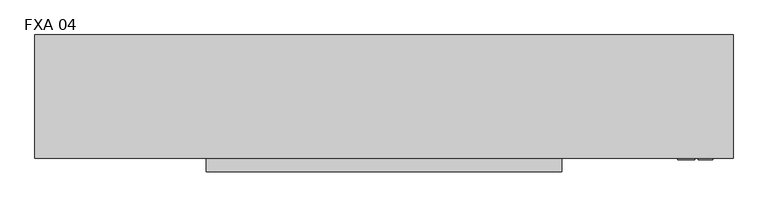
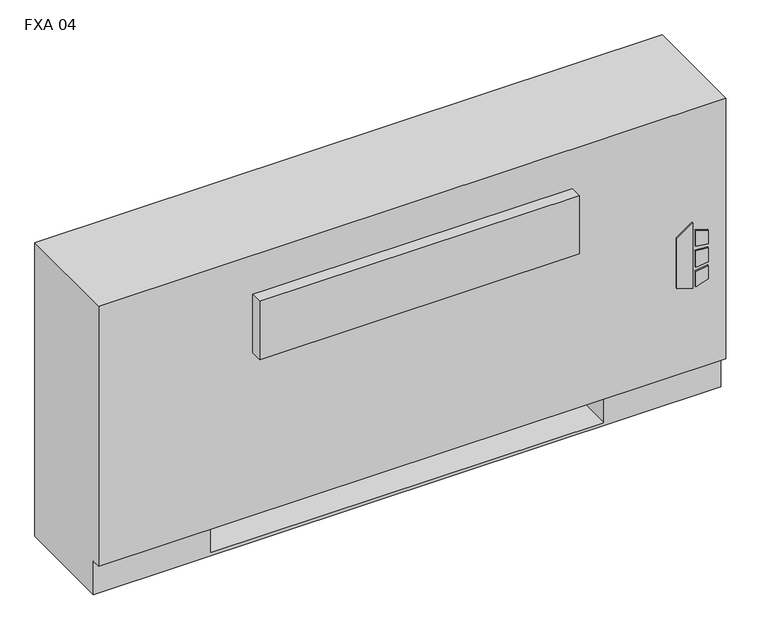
"""IFC4 building model written with IfcOpenShell, lengths in millimetres: proxy geometry, Vertical_Fan_Coil_Unit_-_FXA_-_IEC_-_2-Pipe_FS-FR_LH_2022 : FXA 04."""

import ifcopenshell
import ifcopenshell.guid

model = None  # the IFC model being written
_history = None  # IfcOwnerHistory: only IFC2X3 demands one
_inside = {}  # id of a spatial element -> (the spatial element, [elements in it])
_under = {}  # id of a project, library or spatial element -> (it, [spatial elements below it])
_declared = {}  # id of a project -> (the project, [libraries it declares])
_typed = {}  # id of a type object -> (the type object, [elements of that type])
_made_of = {}  # id of a material, layer set ... -> (it, [elements and type objects made of it])


def new_model(schema):
    """Start an empty IFC model of exactly this schema.

    Asked for "IFC4X3", IfcOpenShell would pick the latest addendum, in which some entities
    have other attributes; the version numbers below select the first issue.
    IFC2X3 requires an IfcOwnerHistory on every rooted entity: one is made here for all.
    """
    global model, _history
    if schema == "IFC4X3":
        model = ifcopenshell.file(schema_version=(4, 3, 0, 0))
    else:
        model = ifcopenshell.file(schema=schema)
    _inside.clear()
    _under.clear()
    _declared.clear()
    _typed.clear()
    _made_of.clear()
    _history = None
    if model.schema == "IFC2X3":
        org = make("IfcOrganization", Name="unknown")
        user = make(
            "IfcPersonAndOrganization",
            ThePerson=make("IfcPerson", FamilyName="unknown"),
            TheOrganization=org,
        )
        app = make(
            "IfcApplication",
            ApplicationDeveloper=org,
            Version="unknown",
            ApplicationFullName="unknown",
            ApplicationIdentifier="unknown",
        )
        _history = make(
            "IfcOwnerHistory",
            OwningUser=user,
            OwningApplication=app,
            ChangeAction="ADDED",
            CreationDate=0,
        )
    return model


def make(cls, **values):
    """One entity of the class cls with the attributes given. An attribute that is None is left unset."""
    return model.create_entity(
        cls, **{name: value for name, value in values.items() if value is not None}
    )


def rooted(cls, **values):
    """An entity with a GlobalId (a new one), such as an element, a storey or a relation."""
    return make(cls, GlobalId=ifcopenshell.guid.new(), OwnerHistory=_history, **values)


def si_unit(unit_type, name, prefix=None):
    """IfcSIUnit, for example si_unit("LENGTHUNIT", "METRE", prefix="MILLI")."""
    return make("IfcSIUnit", UnitType=unit_type, Prefix=prefix, Name=name)


def assignment(units):
    """IfcUnitAssignment: the units of a project."""
    return None if units is None else make("IfcUnitAssignment", Units=units)


def point(xyz):
    """IfcCartesianPoint."""
    return None if xyz is None else make("IfcCartesianPoint", Coordinates=xyz)


def direction(xyz):
    """IfcDirection."""
    return None if xyz is None else make("IfcDirection", DirectionRatios=xyz)


def frame(location, z_axis=None, x_axis=None):
    """IfcAxis2Placement3D, a coordinate frame: its origin and axes. An axis left out is left unset."""
    return make(
        "IfcAxis2Placement3D",
        Location=point(location),
        Axis=direction(z_axis),
        RefDirection=direction(x_axis),
    )


def frame_2d(location, x_axis=None):
    """IfcAxis2Placement2D, a coordinate frame in the plane: its origin and x axis."""
    return make(
        "IfcAxis2Placement2D", Location=point(location), RefDirection=direction(x_axis)
    )


def origin():
    """The frame at (0, 0, 0) with its axes left unset."""
    return frame((0.0, 0.0, 0.0))


def place(relative_to, where):
    """IfcLocalPlacement: puts the frame where relative to a parent placement (None: the world)."""
    return make(
        "IfcLocalPlacement", PlacementRelTo=relative_to, RelativePlacement=where
    )


def context(
    kind, dimensions, precision=None, world=None, true_north=None, identifier=None
):
    """IfcGeometricRepresentationContext, for example the 3D "Model" context."""
    return make(
        "IfcGeometricRepresentationContext",
        ContextIdentifier=identifier,
        ContextType=kind,
        CoordinateSpaceDimension=dimensions,
        Precision=precision,
        WorldCoordinateSystem=world,
        TrueNorth=true_north,
    )


def project(units=None, contexts=None):
    """IfcProject with its units and contexts."""
    return rooted(
        "IfcProject",
        Name="project",
        RepresentationContexts=contexts,
        UnitsInContext=assignment(units),
    )


def spatial(cls, under=None, at=None, **own):
    """A site, building, storey or space (cls), placed at a placement, below another one or the project."""
    s = rooted(cls, ObjectPlacement=at, **own)
    if under is not None:
        _under.setdefault(under.id(), (under, []))[1].append(s)
    return s


def polyline(points):
    """IfcPolyline through the points."""
    return make("IfcPolyline", Points=[point(p) for p in points])


def circle_curve(where, radius):
    """IfcCircle in the frame where."""
    return make("IfcCircle", Position=where, Radius=radius)


def trimmed(basis, trim1, trim2, sense, master):
    """IfcTrimmedCurve: the piece of a basis curve between two trims."""
    return make(
        "IfcTrimmedCurve",
        BasisCurve=basis,
        Trim1=trim1,
        Trim2=trim2,
        SenseAgreement=sense,
        MasterRepresentation=master,
    )


def segment(curve, same_sense, transition):
    """IfcCompositeCurveSegment."""
    return make(
        "IfcCompositeCurveSegment",
        Transition=transition,
        SameSense=same_sense,
        ParentCurve=curve,
    )


def composite_curve(segments, self_intersect=None):
    """IfcCompositeCurve: segments joined end to end."""
    return make("IfcCompositeCurve", Segments=segments, SelfIntersect=self_intersect)


def outline(outer, holes=None, kind="AREA"):
    """IfcArbitraryClosedProfileDef: a profile drawn as a closed curve; with holes, ...WithVoids."""
    if holes is None:
        return make("IfcArbitraryClosedProfileDef", ProfileType=kind, OuterCurve=outer)
    return make(
        "IfcArbitraryProfileDefWithVoids",
        ProfileType=kind,
        OuterCurve=outer,
        InnerCurves=holes,
    )


def extrude(swept, where, along, depth):
    """IfcExtrudedAreaSolid: the profile swept, set in the frame where, extruded along a direction by depth."""
    return make(
        "IfcExtrudedAreaSolid",
        SweptArea=swept,
        Position=where,
        ExtrudedDirection=direction(along),
        Depth=depth,
    )


def shape(context_of_items, identifier, shape_type, items):
    """IfcShapeRepresentation: the items that make up one representation, for example the "Body"."""
    return make(
        "IfcShapeRepresentation",
        ContextOfItems=context_of_items,
        RepresentationIdentifier=identifier,
        RepresentationType=shape_type,
        Items=items,
    )


def source(mapping_origin, context_of_items, identifier, shape_type, items):
    """IfcRepresentationMap: a shape defined once, which mapped items show again and again."""
    return make(
        "IfcRepresentationMap",
        MappingOrigin=mapping_origin,
        MappedRepresentation=shape(context_of_items, identifier, shape_type, items),
    )


def transform(
    local_origin,
    x_axis=None,
    y_axis=None,
    z_axis=None,
    scale=None,
    scale2=None,
    scale3=None,
    uniform=True,
):
    """IfcCartesianTransformationOperator3D, or its non-uniform kind. x_axis, y_axis, z_axis: its Axis1, 2, 3."""
    if uniform:
        return make(
            "IfcCartesianTransformationOperator3D",
            Axis1=direction(x_axis),
            Axis2=direction(y_axis),
            LocalOrigin=point(local_origin),
            Scale=scale,
            Axis3=direction(z_axis),
        )
    return make(
        "IfcCartesianTransformationOperator3DnonUniform",
        Axis1=direction(x_axis),
        Axis2=direction(y_axis),
        LocalOrigin=point(local_origin),
        Scale=scale,
        Axis3=direction(z_axis),
        Scale2=scale2,
        Scale3=scale3,
    )


def mapped(mapping_source, mapping_target):
    """IfcMappedItem: shows the shape of a source again, moved by a transform."""
    return make(
        "IfcMappedItem", MappingSource=mapping_source, MappingTarget=mapping_target
    )


def made_of(thing, what):
    """Note that an element or type object is made of a material, layer set ...; save() writes the relation."""
    if what is not None:
        _made_of.setdefault(what.id(), (what, []))[1].append(thing)
    return thing


def element(
    cls,
    number,
    at=None,
    inside=None,
    cuts=None,
    type_object=None,
    material=None,
    context=None,
    identifier="Body",
    shape_type=None,
    held_by="IfcProductDefinitionShape",
    body=None,
    shapes=None,
    **own,
):
    """One element of the class cls, such as IfcWall. Its Tag is "e" and its number.

    at: its placement. inside: the storey or other place that contains it. cuts: it is an
    opening in that element (IfcRelVoidsElement). A single representation is given by context,
    identifier, shape_type and body (its items); several are given by shapes. held_by: the class
    of the entity that holds the representations. save() writes the other relations.
    """
    e = rooted(cls, Tag="e%d" % number, ObjectPlacement=at, **own)
    if body is not None:
        shapes = [shape(context, identifier, shape_type, body)]
    if shapes is not None:
        e.Representation = make(held_by, Representations=shapes)
    if inside is not None:
        _inside.setdefault(inside.id(), (inside, []))[1].append(e)
    if cuts is not None:
        rooted(
            "IfcRelVoidsElement", RelatingBuildingElement=cuts, RelatedOpeningElement=e
        )
    if type_object is not None:
        _typed.setdefault(type_object.id(), (type_object, []))[1].append(e)
    return made_of(e, material)


def aggregate(whole, parts):
    """IfcRelAggregates: a whole, such as a stair, and the parts it consists of."""
    return rooted("IfcRelAggregates", RelatingObject=whole, RelatedObjects=parts)


def save(model, path):
    """Write the relations noted so far, then the file.

    IfcRelAggregates (storeys below a building ...), IfcRelContainedInSpatialStructure (elements
    in a storey), IfcRelDefinesByType, IfcRelAssociatesMaterial and IfcRelDeclares: one each for
    every whole, place, type object, material and project.
    """
    for whole, parts in _under.values():
        aggregate(whole, parts)
    for where, things in _inside.values():
        rooted(
            "IfcRelContainedInSpatialStructure",
            RelatedElements=things,
            RelatingStructure=where,
        )
    for kind, things in _typed.values():
        rooted("IfcRelDefinesByType", RelatedObjects=things, RelatingType=kind)
    for what, things in _made_of.values():
        rooted("IfcRelAssociatesMaterial", RelatedObjects=things, RelatingMaterial=what)
    for by, libraries in _declared.values():
        rooted("IfcRelDeclares", RelatingContext=by, RelatedDefinitions=libraries)
    model.write(path)


def plane_surface(at):
    """IfcPlane: the flat surface through the origin of the frame at, square to its z axis."""
    return make("IfcPlane", Position=at)


def revolved_surface(curve, axis_point, axis_direction):
    """IfcSurfaceOfRevolution: the curve turned about the line through axis_point along axis_direction."""
    return make(
        "IfcSurfaceOfRevolution",
        SweptCurve=make("IfcArbitraryOpenProfileDef", ProfileType="CURVE", Curve=curve),
        AxisPosition=make("IfcAxis1Placement", Location=point(axis_point), Axis=direction(axis_direction)),
    )


def advanced_brep(points, edges, surfaces, faces):
    """IfcAdvancedBrep: a solid bounded by faces that lie on surfaces and meet in shared edges.

    An edge is (start, end): straight between two places in points (the first is 0);
    or (start, end, curve); or (start, end, curve, False) where it runs against its curve.
    A face is (place in surfaces, loops), or (place, loops, False) where it looks against
    its surface's normal. A loop lists edges by number (the first is 1), with a minus sign
    where the edge is run from its end to its start. The first loop is the outer one.
    """
    corners = [point(p) for p in points]
    vertices = [make("IfcVertexPoint", VertexGeometry=c) for c in corners]
    made = []
    for start, end, *more in edges:
        made.append(
            make(
                "IfcEdgeCurve",
                EdgeStart=vertices[start],
                EdgeEnd=vertices[end],
                EdgeGeometry=more[0] if more else make("IfcPolyline", Points=[corners[start], corners[end]]),
                SameSense=more[1] if len(more) > 1 else True,
            )
        )
    hull = []
    for where, loops, *sense in faces:
        bounds = []
        for j, loop in enumerate(loops):
            ring = [make("IfcOrientedEdge", EdgeElement=made[abs(k) - 1], Orientation=k > 0) for k in loop]
            bounds.append(
                make(
                    "IfcFaceOuterBound" if j == 0 else "IfcFaceBound",
                    Bound=make("IfcEdgeLoop", EdgeList=ring),
                    Orientation=True,
                )
            )
        hull.append(make("IfcAdvancedFace", Bounds=bounds, FaceSurface=surfaces[where], SameSense=sense[0] if sense else True))
    return make("IfcAdvancedBrep", Outer=make("IfcClosedShell", CfsFaces=hull))


def fxa_04_157f485f(model_context):
    return source(origin(), model_context, "Body", "SolidModel", [
        extrude(outline(polyline([(263.9480703, 696.9868862), (254.0, 729.1602728), (396.1709244, 729.1602728), (373.1489183, 696.9868862), (263.9480703, 696.9868862)])), frame((0.0, 12.7, 0.0), z_axis=(0.0, 1.0, 0.0), x_axis=(0.0, 0.0, 1.0)), (0.0, 0.0, 1.0), 3.175),
        extrude(outline(polyline([(342.9473557, 735.9186058), (339.7449632, 762.0), (368.9738042, 762.0), (377.0382193, 735.9186058), (342.9473557, 735.9186058)])), frame((0.0, 12.7, 0.0), z_axis=(0.0, 1.0, 0.0), x_axis=(0.0, 0.0, 1.0)), (0.0, 0.0, 1.0), 3.175),
        extrude(outline(polyline([(291.0838288, 762.0), (287.4183279, 735.9186058), (254.0, 735.9186058), (262.6342372, 762.0), (291.0838288, 762.0)])), frame((0.0, 12.7, 0.0), z_axis=(0.0, 1.0, 0.0), x_axis=(0.0, 0.0, 1.0)), (0.0, 0.0, 1.0), 3.175),
        extrude(outline(polyline([(330.3989903, 762.0), (332.6808166, 735.9186058), (296.7432681, 735.9186058), (299.4845331, 762.0), (330.3989903, 762.0)])), frame((0.0, 12.7, 0.0), z_axis=(0.0, 1.0, 0.0), x_axis=(0.0, 0.0, 1.0)), (0.0, 0.0, 1.0), 3.175),
        extrude(outline(polyline([(679.45, 223.266), (679.45, 81.534), (558.8, 81.534), (558.8, 223.266), (679.45, 223.266)])), frame((0.0, 0.0, 327.025), z_axis=(0.0, 0.0, 1.0), x_axis=(1.0, 0.0, 0.0)), (0.0, 0.0, 1.0), 260.35),
        extrude(outline(composite_curve([segment(trimmed(circle_curve(frame_2d((-317.5, 130.175)), 9.525), [point((-327.025, 130.175))], [point((-307.975, 130.175))], False, "CARTESIAN"), True, "CONTINUOUS"), segment(trimmed(circle_curve(frame_2d((-317.5, 130.175)), 9.525), [point((-307.975, 130.175))], [point((-327.025, 130.175))], False, "CARTESIAN"), True, "CONTINUOUS")], self_intersect=False)), frame((0.0, 0.0, 101.6), z_axis=(0.0, 0.0, 1.0), x_axis=(1.0, 0.0, 0.0)), (0.0, 0.0, 1.0), 25.4),
        extrude(outline(polyline([(-419.1, 63.5), (-419.1, 196.85), (-254.0, 196.85), (-254.0, 63.5), (-419.1, 63.5)])), frame((0.0, 0.0, 127.0), z_axis=(0.0, 0.0, 1.0), x_axis=(1.0, 0.0, 0.0)), (0.0, 0.0, 1.0), 50.8),
        extrude(outline(polyline([(482.6, -9.525), (-177.8, -9.525), (-177.8, 15.875), (482.6, 15.875), (482.6, -9.525)])), frame((0.0, 0.0, 428.625), z_axis=(0.0, 0.0, 1.0), x_axis=(1.0, 0.0, 0.0)), (0.0, 0.0, 1.0), 127.0),
        extrude(outline(composite_curve([segment(trimmed(circle_curve(frame_2d((93.1926, 485.5972)), 7.9375), [point((93.1926, 493.5347))], [point((93.1926, 477.6597))], False, "CARTESIAN"), True, "CONTINUOUS"), segment(trimmed(circle_curve(frame_2d((93.1926, 485.5972)), 7.9375), [point((93.1926, 477.6597))], [point((93.1926, 493.5347))], False, "CARTESIAN"), True, "CONTINUOUS")], self_intersect=False)), frame((-304.8, 0.0, 0.0), z_axis=(1.0, 0.0, 0.0), x_axis=(0.0, 1.0, 0.0)), (0.0, 0.0, 1.0), 50.8),
        extrude(outline(composite_curve([segment(trimmed(circle_curve(frame_2d((141.3002, 458.9526)), 7.9375), [point((141.3002, 466.8901))], [point((141.3002, 451.0151))], False, "CARTESIAN"), True, "CONTINUOUS"), segment(trimmed(circle_curve(frame_2d((141.3002, 458.9526)), 7.9375), [point((141.3002, 451.0151))], [point((141.3002, 466.8901))], False, "CARTESIAN"), True, "CONTINUOUS")], self_intersect=False)), frame((-304.8, 0.0, 0.0), z_axis=(1.0, 0.0, 0.0), x_axis=(0.0, 1.0, 0.0)), (0.0, 0.0, 1.0), 50.8),
        advanced_brep(
        [(800.1, 244.475, 641.35), (-495.3, 244.475, 641.35), (-495.3, 15.875, 641.35), (800.1, 15.875, 641.35), (-495.3, 244.475, 0.0), (800.1, 244.475, 0.0), (800.1, 34.925, 0.0), (-495.3, 34.925, 0.0), (558.8, 244.475, 73.025), (787.4, 244.475, 73.025), (787.4, 244.475, 628.65), (558.8, 244.475, 628.65), (558.8, 244.475, 414.8650565), (587.375, 244.475, 414.8650565), (587.375, 244.475, 385.2349435), (558.8, 244.475, 385.2349435), (558.8, 244.475, 287.3375), (587.375, 244.475, 287.3375), (587.375, 244.475, 258.7625), (558.8, 244.475, 258.7625), (558.8, 244.475, 141.2875), (587.375, 244.475, 141.2875), (587.375, 244.475, 112.7125), (558.8, 244.475, 112.7125), (-254.0, 244.475, 628.65), (-482.6, 244.475, 628.65), (-482.6, 244.475, 73.025), (-254.0, 244.475, 73.025), (-254.0, 244.475, 112.7125), (-282.575, 244.475, 112.7125), (-282.575, 244.475, 141.2875), (-254.0, 244.475, 141.2875), (-254.0, 244.475, 258.7625), (-282.575, 244.475, 258.7625), (-282.575, 244.475, 287.3375), (-254.0, 244.475, 287.3375), (-254.0, 244.475, 385.2349435), (-282.575, 244.475, 385.2349435), (-282.575, 244.475, 414.8650565), (-254.0, 244.475, 414.8650565), (577.0626, 244.475, 127.0), (565.9374, 244.475, 127.0), (577.0626, 244.475, 400.05), (565.9374, 244.475, 400.05), (577.0626, 244.475, 273.05), (565.9374, 244.475, 273.05), (-261.1374, 244.475, 127.0), (-272.2626, 244.475, 127.0), (-261.1374, 244.475, 273.05), (-272.2626, 244.475, 273.05), (-261.1374, 244.475, 400.05), (-272.2626, 244.475, 400.05), (-495.3, 34.925, 73.025), (-495.3, 15.875, 73.025), (800.1, 15.875, 73.025), (800.1, 34.925, 73.025), (-254.0, 34.925, 73.025), (-254.0, 219.075, 73.025), (558.8, 219.075, 73.025), (558.8, 34.925, 73.025), (558.8, 34.925, 6.35), (-254.0, 34.925, 6.35), (558.8, 41.275, 628.65), (787.4, 41.275, 628.65), (787.4, 41.275, 73.025), (558.8, 41.275, 73.025), (-254.0, 41.275, 628.65), (-254.0, 41.275, 73.025), (-482.6, 41.275, 73.025), (-482.6, 41.275, 628.65), (558.8, 219.075, 73.025), (558.8, 238.125, 112.7125), (558.8, 238.125, 141.2875), (558.8, 238.125, 258.7625), (558.8, 238.125, 287.3375), (558.8, 238.125, 385.2349435), (558.8, 238.125, 414.8650565), (-254.0, 219.075, 73.025), (-254.0, 238.125, 414.8650565), (-254.0, 238.125, 385.2349435), (-254.0, 238.125, 287.3375), (-254.0, 238.125, 258.7625), (-254.0, 238.125, 141.2875), (-254.0, 238.125, 112.7125), (-254.0, 219.075, 6.35), (558.8, 219.075, 6.35), (587.375, 238.125, 112.7125), (587.375, 238.125, 141.2875), (565.9374, 238.125, 127.0), (577.0626, 238.125, 127.0), (587.375, 238.125, 258.7625), (587.375, 238.125, 287.3375), (565.9374, 238.125, 273.05), (577.0626, 238.125, 273.05), (587.375, 238.125, 385.2349435), (587.375, 238.125, 414.8650565), (565.9374, 238.125, 400.05), (577.0626, 238.125, 400.05), (-282.575, 238.125, 141.2875), (-282.575, 238.125, 112.7125), (-272.2626, 238.125, 127.0), (-261.1374, 238.125, 127.0), (-282.575, 238.125, 287.3375), (-282.575, 238.125, 258.7625), (-272.2626, 238.125, 273.05), (-261.1374, 238.125, 273.05), (-282.575, 238.125, 414.8650565), (-282.575, 238.125, 385.2349435), (-272.2626, 238.125, 400.05), (-261.1374, 238.125, 400.05)],
        [
            (0, 1),
            (1, 2),
            (2, 3),
            (3, 0),
            (4, 5),
            (5, 6),
            (6, 7),
            (7, 4),
            (0, 5),
            (4, 1),
            (8, 9),
            (9, 10),
            (10, 11),
            (11, 12),
            (12, 13),
            (13, 14),
            (14, 15),
            (15, 16),
            (16, 17),
            (17, 18),
            (18, 19),
            (19, 20),
            (20, 21),
            (21, 22),
            (22, 23),
            (23, 8),
            (24, 25),
            (25, 26),
            (26, 27),
            (27, 28),
            (28, 29),
            (29, 30),
            (30, 31),
            (31, 32),
            (32, 33),
            (33, 34),
            (34, 35),
            (35, 36),
            (36, 37),
            (37, 38),
            (38, 39),
            (39, 24),
            (40, 41, circle_curve(frame((571.5, 244.475, 127.0), z_axis=(0.0, -1.0, 0.0), x_axis=(-1.0, 0.0, 0.0)), 5.5626)),
            (41, 40, circle_curve(frame((571.5, 244.475, 127.0), z_axis=(0.0, -1.0, 0.0), x_axis=(-1.0, 0.0, 0.0)), 5.5626)),
            (42, 43, circle_curve(frame((571.5, 244.475, 400.05), z_axis=(0.0, -1.0, 0.0), x_axis=(-1.0, 0.0, 0.0)), 5.5626)),
            (43, 42, circle_curve(frame((571.5, 244.475, 400.05), z_axis=(0.0, -1.0, 0.0), x_axis=(-1.0, 0.0, 0.0)), 5.5626)),
            (44, 45, circle_curve(frame((571.5, 244.475, 273.05), z_axis=(0.0, -1.0, 0.0), x_axis=(-1.0, 0.0, 0.0)), 5.5626)),
            (45, 44, circle_curve(frame((571.5, 244.475, 273.05), z_axis=(0.0, -1.0, 0.0), x_axis=(-1.0, 0.0, 0.0)), 5.5626)),
            (46, 47, circle_curve(frame((-266.7, 244.475, 127.0), z_axis=(0.0, -1.0, 0.0), x_axis=(-1.0, 0.0, 0.0)), 5.5626)),
            (47, 46, circle_curve(frame((-266.7, 244.475, 127.0), z_axis=(0.0, -1.0, 0.0), x_axis=(-1.0, 0.0, 0.0)), 5.5626)),
            (48, 49, circle_curve(frame((-266.7, 244.475, 273.05), z_axis=(0.0, -1.0, 0.0), x_axis=(-1.0, 0.0, 0.0)), 5.5626)),
            (49, 48, circle_curve(frame((-266.7, 244.475, 273.05), z_axis=(0.0, -1.0, 0.0), x_axis=(-1.0, 0.0, 0.0)), 5.5626)),
            (50, 51, circle_curve(frame((-266.7, 244.475, 400.05), z_axis=(0.0, -1.0, 0.0), x_axis=(-1.0, 0.0, 0.0)), 5.5626)),
            (51, 50, circle_curve(frame((-266.7, 244.475, 400.05), z_axis=(0.0, -1.0, 0.0), x_axis=(-1.0, 0.0, 0.0)), 5.5626)),
            (7, 52),
            (52, 53),
            (53, 2),
            (53, 54),
            (54, 3),
            (54, 55),
            (55, 6),
            (52, 56),
            (56, 57),
            (57, 58),
            (58, 59),
            (59, 55),
            (59, 60),
            (60, 61),
            (61, 56),
            (62, 63),
            (63, 64),
            (64, 65),
            (65, 62),
            (66, 67),
            (67, 68),
            (68, 69),
            (69, 66),
            (65, 70),
            (70, 8),
            (23, 71),
            (71, 72),
            (72, 20),
            (19, 73),
            (73, 74),
            (74, 16),
            (15, 75),
            (75, 76),
            (76, 12),
            (11, 62),
            (64, 9),
            (63, 10),
            (69, 25),
            (24, 66),
            (68, 26),
            (67, 77),
            (77, 27),
            (39, 78),
            (78, 79),
            (79, 36),
            (35, 80),
            (80, 81),
            (81, 32),
            (31, 82),
            (82, 83),
            (83, 28),
            (57, 84),
            (84, 85),
            (85, 58),
            (85, 60),
            (84, 61),
            (71, 86),
            (86, 87),
            (87, 72),
            (88, 89, circle_curve(frame((571.5, 238.125, 127.0), z_axis=(0.0, 1.0, 0.0), x_axis=(-1.0, 0.0, 0.0)), 5.5626)),
            (89, 88, circle_curve(frame((571.5, 238.125, 127.0), z_axis=(0.0, 1.0, 0.0), x_axis=(-1.0, 0.0, 0.0)), 5.5626)),
            (73, 90),
            (90, 91),
            (91, 74),
            (92, 93, circle_curve(frame((571.5, 238.125, 273.05), z_axis=(0.0, 1.0, 0.0), x_axis=(-1.0, 0.0, 0.0)), 5.5626)),
            (93, 92, circle_curve(frame((571.5, 238.125, 273.05), z_axis=(0.0, 1.0, 0.0), x_axis=(-1.0, 0.0, 0.0)), 5.5626)),
            (75, 94),
            (94, 95),
            (95, 76),
            (96, 97, circle_curve(frame((571.5, 238.125, 400.05), z_axis=(0.0, 1.0, 0.0), x_axis=(-1.0, 0.0, 0.0)), 5.5626)),
            (97, 96, circle_curve(frame((571.5, 238.125, 400.05), z_axis=(0.0, 1.0, 0.0), x_axis=(-1.0, 0.0, 0.0)), 5.5626)),
            (98, 99),
            (99, 83),
            (82, 98),
            (100, 101, circle_curve(frame((-266.7, 238.125, 127.0), z_axis=(0.0, 1.0, 0.0), x_axis=(-1.0, 0.0, 0.0)), 5.5626)),
            (101, 100, circle_curve(frame((-266.7, 238.125, 127.0), z_axis=(0.0, 1.0, 0.0), x_axis=(-1.0, 0.0, 0.0)), 5.5626)),
            (102, 103),
            (103, 81),
            (80, 102),
            (104, 105, circle_curve(frame((-266.7, 238.125, 273.05), z_axis=(0.0, 1.0, 0.0), x_axis=(-1.0, 0.0, 0.0)), 5.5626)),
            (105, 104, circle_curve(frame((-266.7, 238.125, 273.05), z_axis=(0.0, 1.0, 0.0), x_axis=(-1.0, 0.0, 0.0)), 5.5626)),
            (106, 107),
            (107, 79),
            (78, 106),
            (108, 109, circle_curve(frame((-266.7, 238.125, 400.05), z_axis=(0.0, 1.0, 0.0), x_axis=(-1.0, 0.0, 0.0)), 5.5626)),
            (109, 108, circle_curve(frame((-266.7, 238.125, 400.05), z_axis=(0.0, 1.0, 0.0), x_axis=(-1.0, 0.0, 0.0)), 5.5626)),
            (87, 21),
            (86, 22),
            (91, 17),
            (90, 18),
            (95, 13),
            (94, 14),
            (30, 98),
            (99, 29),
            (34, 102),
            (103, 33),
            (38, 106),
            (107, 37),
            (88, 41),
            (40, 89),
            (96, 43),
            (42, 97),
            (92, 45),
            (44, 93),
            (100, 47),
            (46, 101),
            (104, 49),
            (48, 105),
            (108, 51),
            (50, 109),
        ],
        [
            plane_surface(frame((-495.3, 244.475, 641.35), z_axis=(0.0, 0.0, 1.0), x_axis=(-1.0, 0.0, 0.0))),
            plane_surface(frame((-495.3, 244.475, 0.0), z_axis=(0.0, 0.0, -1.0), x_axis=(1.0, 0.0, 0.0))),
            plane_surface(frame((800.1, 244.475, 641.35), z_axis=(0.0, 1.0, 0.0), x_axis=(0.0, 0.0, -1.0))),
            plane_surface(frame((-495.3, 244.475, 641.35), z_axis=(-1.0, 0.0, 0.0), x_axis=(0.0, 0.0, -1.0))),
            plane_surface(frame((-495.3, 15.875, 641.35), z_axis=(0.0, -1.0, 0.0), x_axis=(0.0, 0.0, -1.0))),
            plane_surface(frame((800.1, 15.875, 641.35), z_axis=(1.0, 0.0, 0.0), x_axis=(0.0, 0.0, -1.0))),
            plane_surface(frame((-495.3, 15.875, 73.025), z_axis=(0.0, 0.0, -1.0), x_axis=(1.0, 0.0, 0.0))),
            plane_surface(frame((-495.3, 34.925, 73.025), z_axis=(0.0, -1.0, 0.0), x_axis=(1.0, 0.0, 0.0))),
            plane_surface(frame((558.8, 41.275, 628.65), z_axis=(0.0, 1.0, 0.0), x_axis=(0.0, 0.0, -1.0))),
            plane_surface(frame((558.8, 41.275, 628.65), z_axis=(1.0, 0.0, 0.0), x_axis=(0.0, 1.0, 0.0))),
            plane_surface(frame((558.8, 41.275, 73.025), z_axis=(0.0, 0.0, 1.0), x_axis=(0.0, 1.0, 0.0))),
            plane_surface(frame((787.4, 41.275, 73.025), z_axis=(-1.0, 0.0, 0.0), x_axis=(0.0, 1.0, 0.0))),
            plane_surface(frame((787.4, 41.275, 628.65), z_axis=(0.0, 0.0, -1.0), x_axis=(0.0, 1.0, 0.0))),
            plane_surface(frame((-254.0, 41.275, 628.65), z_axis=(0.0, 0.0, -1.0), x_axis=(0.0, 1.0, 0.0))),
            plane_surface(frame((-482.6, 41.275, 628.65), z_axis=(1.0, 0.0, 0.0), x_axis=(0.0, 1.0, 0.0))),
            plane_surface(frame((-482.6, 41.275, 73.025), z_axis=(0.0, 0.0, 1.0), x_axis=(0.0, 1.0, 0.0))),
            plane_surface(frame((-254.0, 41.275, 73.025), z_axis=(-1.0, 0.0, 0.0), x_axis=(0.0, 1.0, 0.0))),
            plane_surface(frame((558.8, 219.075, 73.025), z_axis=(0.0, -1.0, 0.0), x_axis=(0.0, 0.0, -1.0))),
            plane_surface(frame((558.8, 219.075, 73.025), z_axis=(-1.0, 0.0, 0.0), x_axis=(0.0, -1.0, 0.0))),
            plane_surface(frame((558.8, 219.075, 6.35), z_axis=(0.0, 0.0, 1.0), x_axis=(0.0, -1.0, 0.0))),
            plane_surface(frame((-254.0, 219.075, 6.35), z_axis=(1.0, 0.0, 0.0), x_axis=(0.0, -1.0, 0.0))),
            plane_surface(frame((587.375, 238.125, 141.2875), z_axis=(0.0, -1.0, 0.0), x_axis=(-1.0, 0.0, 0.0))),
            plane_surface(frame((558.8, 244.475, 141.2875), z_axis=(0.0, 0.0, 1.0), x_axis=(0.0, -1.0, 0.0))),
            plane_surface(frame((587.375, 244.475, 141.2875), z_axis=(1.0, 0.0, 0.0), x_axis=(0.0, -1.0, 0.0))),
            plane_surface(frame((587.375, 244.475, 112.7125), z_axis=(0.0, 0.0, -1.0), x_axis=(0.0, -1.0, 0.0))),
            plane_surface(frame((558.8, 244.475, 287.3375), z_axis=(0.0, 0.0, 1.0), x_axis=(0.0, -1.0, 0.0))),
            plane_surface(frame((587.375, 244.475, 287.3375), z_axis=(1.0, 0.0, 0.0), x_axis=(0.0, -1.0, 0.0))),
            plane_surface(frame((587.375, 244.475, 258.7625), z_axis=(0.0, 0.0, -1.0), x_axis=(0.0, -1.0, 0.0))),
            plane_surface(frame((558.8, 244.475, 414.8650565), z_axis=(0.0, 0.0, 1.0), x_axis=(0.0, -1.0, 0.0))),
            plane_surface(frame((587.375, 244.475, 414.8650565), z_axis=(1.0, 0.0, 0.0), x_axis=(0.0, -1.0, 0.0))),
            plane_surface(frame((587.375, 244.475, 385.2349435), z_axis=(0.0, 0.0, -1.0), x_axis=(0.0, -1.0, 0.0))),
            plane_surface(frame((-282.575, 244.475, 141.2875), z_axis=(0.0, 0.0, 1.0), x_axis=(0.0, -1.0, 0.0))),
            plane_surface(frame((-254.0, 244.475, 112.7125), z_axis=(0.0, 0.0, -1.0), x_axis=(0.0, -1.0, 0.0))),
            plane_surface(frame((-282.575, 244.475, 112.7125), z_axis=(-1.0, 0.0, 0.0), x_axis=(0.0, -1.0, 0.0))),
            plane_surface(frame((-282.575, 244.475, 287.3375), z_axis=(0.0, 0.0, 1.0), x_axis=(0.0, -1.0, 0.0))),
            plane_surface(frame((-254.0, 244.475, 258.7625), z_axis=(0.0, 0.0, -1.0), x_axis=(0.0, -1.0, 0.0))),
            plane_surface(frame((-282.575, 244.475, 258.7625), z_axis=(-1.0, 0.0, 0.0), x_axis=(0.0, -1.0, 0.0))),
            plane_surface(frame((-282.575, 244.475, 414.8650565), z_axis=(0.0, 0.0, 1.0), x_axis=(0.0, -1.0, 0.0))),
            plane_surface(frame((-254.0, 244.475, 385.2349435), z_axis=(0.0, 0.0, -1.0), x_axis=(0.0, -1.0, 0.0))),
            plane_surface(frame((-282.575, 244.475, 385.2349435), z_axis=(-1.0, 0.0, 0.0), x_axis=(0.0, -1.0, 0.0))),
            revolved_surface(polyline([(565.9374, 238.125, 127.0), (565.9374, 244.475, 127.0)]), (571.5, 244.475, 127.0), (0.0, -1.0, 0.0)),
            revolved_surface(polyline([(565.9374, 238.125, 400.05), (565.9374, 244.475, 400.05)]), (571.5, 244.475, 400.05), (0.0, -1.0, 0.0)),
            revolved_surface(polyline([(565.9374, 238.125, 273.05), (565.9374, 244.475, 273.05)]), (571.5, 244.475, 273.05), (0.0, -1.0, 0.0)),
            revolved_surface(polyline([(-272.26259999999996, 238.125, 127.0), (-272.26259999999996, 244.475, 127.0)]), (-266.7, 244.475, 127.0), (0.0, -1.0, 0.0)),
            revolved_surface(polyline([(-272.26259999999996, 238.125, 273.05), (-272.26259999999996, 244.475, 273.05)]), (-266.7, 244.475, 273.05), (0.0, -1.0, 0.0)),
            revolved_surface(polyline([(-272.26259999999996, 238.125, 400.05), (-272.26259999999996, 244.475, 400.05)]), (-266.7, 244.475, 400.05), (0.0, -1.0, 0.0)),
        ],
        [
            (0, [[1, 2, 3, 4]]),
            (1, [[5, 6, 7, 8]]),
            (2, [[-1, 9, -5, 10], [11, 12, 13, 14, 15, 16, 17, 18, 19, 20, 21, 22, 23, 24, 25, 26], [27, 28, 29, 30, 31, 32, 33, 34, 35, 36, 37, 38, 39, 40, 41, 42], [43, 44], [45, 46], [47, 48], [49, 50], [51, 52], [53, 54]]),
            (3, [[-2, -10, -8, 55, 56, 57]]),
            (4, [[-3, -57, 58, 59]]),
            (5, [[-4, -59, 60, 61, -6, -9]]),
            (6, [[-56, 62, 63, 64, 65, 66, -60, -58]]),
            (7, [[-7, -61, -66, 67, 68, 69, -62, -55]]),
            (8, [[70, 71, 72, 73]]),
            (8, [[74, 75, 76, 77]]),
            (9, [[-73, 78, 79, -26, 80, 81, 82, -22, 83, 84, 85, -18, 86, 87, 88, -14, 89]]),
            (10, [[-72, 90, -11, -79, -78]]),
            (11, [[-71, 91, -12, -90]]),
            (12, [[-70, -89, -13, -91]]),
            (13, [[-77, 92, -27, 93]]),
            (14, [[-76, 94, -28, -92]]),
            (15, [[-75, 95, 96, -29, -94]]),
            (16, [[-74, -93, -42, 97, 98, 99, -38, 100, 101, 102, -34, 103, 104, 105, -30, -96, -95]]),
            (17, [[-64, 106, 107, 108]]),
            (18, [[-108, 109, -67, -65]]),
            (19, [[-107, 110, -68, -109]]),
            (20, [[-106, -63, -69, -110]]),
            (21, [[111, 112, 113, -81], [114, 115]]),
            (21, [[116, 117, 118, -84], [119, 120]]),
            (21, [[121, 122, 123, -87], [124, 125]]),
            (21, [[126, 127, -104, 128], [129, 130]]),
            (21, [[131, 132, -101, 133], [134, 135]]),
            (21, [[136, 137, -98, 138], [139, 140]]),
            (22, [[-113, 141, -23, -82]]),
            (23, [[-112, 142, -24, -141]]),
            (24, [[-111, -80, -25, -142]]),
            (25, [[-118, 143, -19, -85]]),
            (26, [[-117, 144, -20, -143]]),
            (27, [[-116, -83, -21, -144]]),
            (28, [[-123, 145, -15, -88]]),
            (29, [[-122, 146, -16, -145]]),
            (30, [[-121, -86, -17, -146]]),
            (31, [[-128, -103, -33, 147]]),
            (32, [[-127, 148, -31, -105]]),
            (33, [[-126, -147, -32, -148]]),
            (34, [[-133, -100, -37, 149]]),
            (35, [[-132, 150, -35, -102]]),
            (36, [[-131, -149, -36, -150]]),
            (37, [[-138, -97, -41, 151]]),
            (38, [[-137, 152, -39, -99]]),
            (39, [[-136, -151, -40, -152]]),
            (40, [[153, -43, 154, -114]]),
            (40, [[-153, -115, -154, -44]]),
            (41, [[155, -45, 156, -124]]),
            (41, [[-155, -125, -156, -46]]),
            (42, [[157, -47, 158, -119]]),
            (42, [[-157, -120, -158, -48]]),
            (43, [[159, -49, 160, -129]]),
            (43, [[-159, -130, -160, -50]]),
            (44, [[161, -51, 162, -134]]),
            (44, [[-161, -135, -162, -52]]),
            (45, [[163, -53, 164, -139]]),
            (45, [[-163, -140, -164, -54]]),
        ],
    ),
    ])


if __name__ == "__main__":
    model = new_model("IFC4")
    model_context = context("Model", 3, world=origin())
    ifc_project = project(units=[si_unit("LENGTHUNIT", "METRE", prefix="MILLI")], contexts=[model_context])
    site = spatial("IfcSite", under=ifc_project)
    building = spatial("IfcBuilding", under=site)
    placement = place(None, origin())
    fxa_04_shape = fxa_04_157f485f(model_context)
    element("IfcBuildingElementProxy", 1, Name="Vertical_Fan_Coil_Unit_-_FXA_-_IEC_-_2-Pipe_FS-FR_LH_2022 : FXA 04", ObjectType="Vertical_Fan_Coil_Unit_-_FXA_-_IEC_-_2-Pipe_FS-FR_LH_2022 : FXA 04", at=placement, inside=building, context=model_context, shape_type="MappedRepresentation", body=[
        mapped(fxa_04_shape, transform((0.0, 0.0, 0.0), x_axis=(1.0, 0.0, 0.0), y_axis=(0.0, 1.0, 0.0), z_axis=(0.0, 0.0, 1.0))),
    ])
    save(model, "model.ifc")
